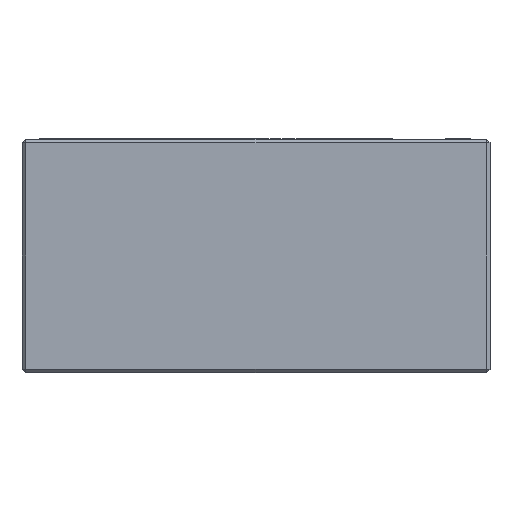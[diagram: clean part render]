
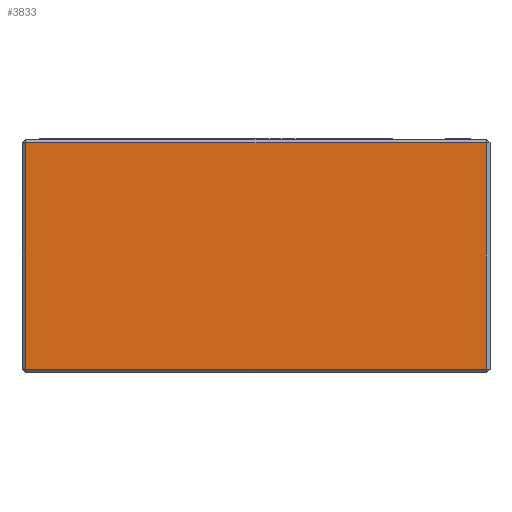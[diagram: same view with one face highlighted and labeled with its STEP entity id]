
A CAD part, front view. The second image highlights one B-rep face of the part: STEP entity #3833.
In plain terms, the highlighted planar face has unit normal (0, -1, 0).
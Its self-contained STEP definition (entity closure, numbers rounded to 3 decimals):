
#20 = ORIENTED_EDGE ( 'NONE', *, *, #11163, .T. ) ;
#694 = EDGE_CURVE ( 'NONE', #8408, #2039, #8907, .T. ) ;
#2039 = VERTEX_POINT ( 'NONE', #4942 ) ;
#2444 = DIRECTION ( 'NONE',  ( 0., 0., -1. ) ) ;
#2481 = ORIENTED_EDGE ( 'NONE', *, *, #694, .T. ) ;
#2499 = CARTESIAN_POINT ( 'NONE',  ( 0.5, -30., -15. ) ) ;
#3208 = EDGE_LOOP ( 'NONE', ( #7436, #10602, #2481, #20 ) ) ;
#3769 = DIRECTION ( 'NONE',  ( 1., 0., 0. ) ) ;
#3781 = CARTESIAN_POINT ( 'NONE',  ( 60., -30., -14.5 ) ) ;
#3833 = ADVANCED_FACE ( 'NONE', ( #4828 ), #12658, .F. ) ;
#3908 = CARTESIAN_POINT ( 'NONE',  ( 59.5, -30., 14.5 ) ) ;
#4088 = VECTOR ( 'NONE', #5035, 1000. ) ;
#4131 = LINE ( 'NONE', #4588, #4088 ) ;
#4235 = AXIS2_PLACEMENT_3D ( 'NONE', #12664, #12633, #12631 ) ;
#4364 = CARTESIAN_POINT ( 'NONE',  ( 0.5, -30., -14.5 ) ) ;
#4588 = CARTESIAN_POINT ( 'NONE',  ( 59.5, -30., 15. ) ) ;
#4725 = VERTEX_POINT ( 'NONE', #5662 ) ;
#4828 = FACE_OUTER_BOUND ( 'NONE', #3208, .T. ) ;
#4848 = EDGE_CURVE ( 'NONE', #4725, #8408, #4131, .T. ) ;
#4942 = CARTESIAN_POINT ( 'NONE',  ( 0.5, -30., 14.5 ) ) ;
#5035 = DIRECTION ( 'NONE',  ( 0., 0., 1. ) ) ;
#5662 = CARTESIAN_POINT ( 'NONE',  ( 59.5, -30., -14.5 ) ) ;
#7127 = VECTOR ( 'NONE', #2444, 1000. ) ;
#7436 = ORIENTED_EDGE ( 'NONE', *, *, #8458, .T. ) ;
#7774 = DIRECTION ( 'NONE',  ( -1., 0., 0. ) ) ;
#7786 = CARTESIAN_POINT ( 'NONE',  ( 60., -30., 14.5 ) ) ;
#8364 = VERTEX_POINT ( 'NONE', #4364 ) ;
#8408 = VERTEX_POINT ( 'NONE', #3908 ) ;
#8458 = EDGE_CURVE ( 'NONE', #8364, #4725, #12423, .T. ) ;
#8883 = VECTOR ( 'NONE', #7774, 1000. ) ;
#8907 = LINE ( 'NONE', #7786, #8883 ) ;
#9252 = LINE ( 'NONE', #2499, #7127 ) ;
#10602 = ORIENTED_EDGE ( 'NONE', *, *, #4848, .T. ) ;
#11163 = EDGE_CURVE ( 'NONE', #2039, #8364, #9252, .T. ) ;
#12363 = VECTOR ( 'NONE', #3769, 1000. ) ;
#12423 = LINE ( 'NONE', #3781, #12363 ) ;
#12631 = DIRECTION ( 'NONE',  ( 0., 0., 1. ) ) ;
#12633 = DIRECTION ( 'NONE',  ( 0., 1., 0. ) ) ;
#12658 = PLANE ( 'NONE',  #4235 ) ;
#12664 = CARTESIAN_POINT ( 'NONE',  ( 60., -30., 15. ) ) ;
